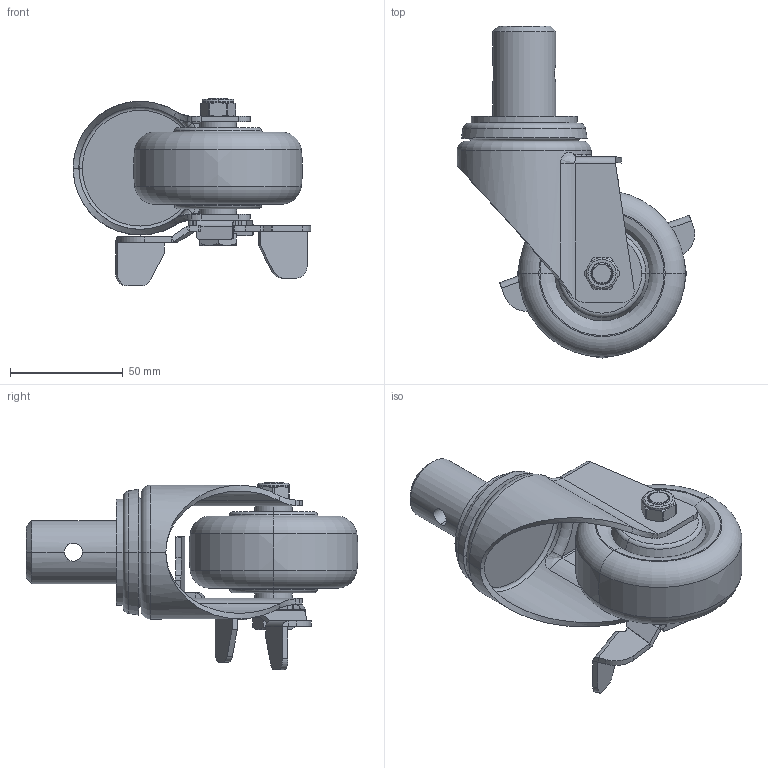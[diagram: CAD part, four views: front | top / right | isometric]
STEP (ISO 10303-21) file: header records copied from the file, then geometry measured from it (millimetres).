
FILE_DESCRIPTION((''),'2;1');
FILE_NAME('50113-503-86_ASM','2020-01-05T',('L'),(''),'PRO/ENGINEER BY PARAMETRIC TECHNOLOGY CORPORATION, 2010280','PRO/ENGINEER BY PARAMETRIC TECHNOLOGY CORPORATION, 2010280','');
FILE_SCHEMA(('CONFIG_CONTROL_DESIGN'));
Length unit declared in the file: millimetre
Products named in the file (7): 50163C; 503-986; 502-33; 570-34; 503-15; 500-14; 50113-503-86_ASM
Assembly tree (6 placements, depth 2):
  50113-503-86_ASM
    50163C
    503-986
    502-33
    570-34
    503-15
    500-14
Bounding box: 105.25 x 147.14 x 83.14 mm (x, y, z)
Volume: 221584.9 mm3; surface area: 56844.6 mm2
Topology: 6 solids, 6 shells, 391 faces, 942 edges, 574 vertices
Faces by surface type: cylinder 148, plane 136, bspline 50, cone 33, torus 24
Entity records: 19950 total; most frequent: CARTESIAN_POINT 11094, ORIENTED_EDGE 1884, DIRECTION 1693, EDGE_CURVE 942, AXIS2_PLACEMENT_3D 628, VERTEX_POINT 574, VECTOR 437, LINE 437
